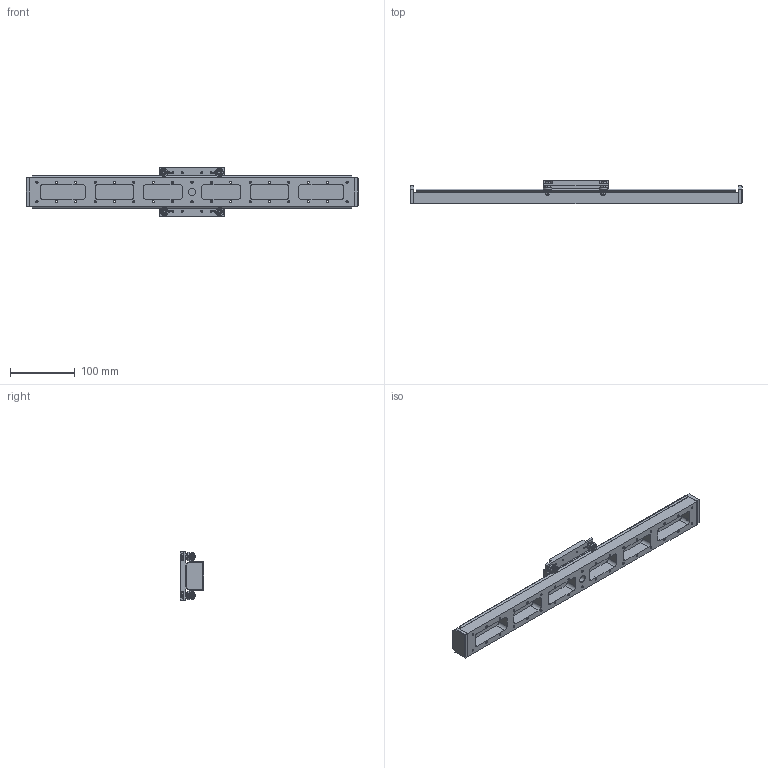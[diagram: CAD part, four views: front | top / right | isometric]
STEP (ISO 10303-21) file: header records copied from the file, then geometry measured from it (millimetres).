
FILE_DESCRIPTION (( 'STEP AP214' ), '1' );
FILE_NAME ('VSM23-P-400 - Simplified.STEP', '2024-06-21T09:14:50', ( '' ), ( '' ), 'SwSTEP 2.0', 'SolidWorks 2024', '' );
FILE_SCHEMA (( 'AUTOMOTIVE_DESIGN' ));
Length unit declared in the file: millimetre
Products named in the file (16): VSM23-P-400 Base plate_Simplified; VSM23-X-400 V-slide_Simplified; Outer_Simplified; P0301.040-A2_P0301.040-A2; VSM23-P End Plate_Simplified; Bearing_Simplified; M4 Washer; Ball; VSM23-P Passive Carriage Assy_Simplified; Concentric Bearing Assy_Simplified; VSM23-P Passive Carriage_Simplified; Inner_Simplified; Eccentric shaft_Simplified; Eccentric Bearing Assy_Simplified; Concentric shaft_Simplified; VSM23-P-400 - Simplified
Assembly tree (34 placements, depth 5):
  VSM23-P-400 - Simplified
    VSM23-P-400 Base plate_Simplified
    VSM23-X-400 V-slide_Simplified
    VSM23-P Passive Carriage Assy_Simplified
      VSM23-P Passive Carriage_Simplified
      Eccentric Bearing Assy_Simplified  x2
        Eccentric shaft_Simplified
        Bearing_Simplified
          Outer_Simplified
          Inner_Simplified
          Ball  x8
        P0301.040-A2_P0301.040-A2
      Concentric Bearing Assy_Simplified  x2
        Concentric shaft_Simplified
        Bearing_Simplified
          Outer_Simplified
          Inner_Simplified
          Ball  x8
        P0301.040-A2_P0301.040-A2
      M4 Washer  x2
      P0301.040-A2_P0301.040-A2  x4
    VSM23-P End Plate_Simplified  x2
Bounding box: 514 x 36 x 75 mm (x, y, z)
Volume: 424902.8 mm3; surface area: 158969.4 mm2
Topology: 99 solids, 99 shells, 1097 faces, 2763 edges, 1790 vertices
Faces by surface type: cylinder 491, plane 278, sphere 128, cone 120, torus 80
Entity records: 17910 total; most frequent: CARTESIAN_POINT 3249, DIRECTION 3199, ORIENTED_EDGE 2742, EDGE_CURVE 1371, AXIS2_PLACEMENT_3D 1306, VERTEX_POINT 900, EDGE_LOOP 801, CIRCLE 736
